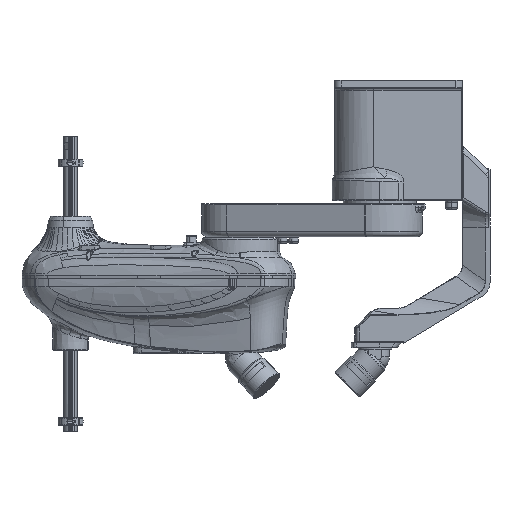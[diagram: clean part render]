
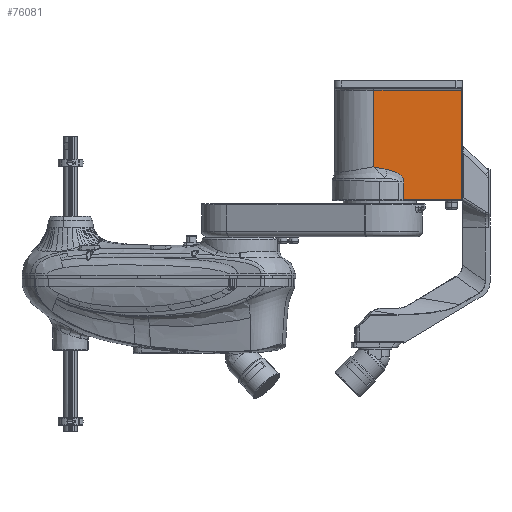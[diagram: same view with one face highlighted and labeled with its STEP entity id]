
A CAD part, front view. The second image highlights one B-rep face of the part: STEP entity #76081.
In plain terms, the highlighted planar face has unit normal (0, -1, 0) as drawn and (0, 0, -1) by its records, which use the part's own axes.
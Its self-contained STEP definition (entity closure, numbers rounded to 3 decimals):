
#1111 = CARTESIAN_POINT ( 'NONE',  ( 130.047, 73.893, 1423.001 ) ) ;
#1681 = CARTESIAN_POINT ( 'NONE',  ( 111.752, 59.114, 1423.001 ) ) ;
#2246 = CARTESIAN_POINT ( 'NONE',  ( 106.217, 57.776, 1423.001 ) ) ;
#2713 = EDGE_CURVE ( 'NONE', #17600, #134558, #20388, .T. ) ;
#2995 = CARTESIAN_POINT ( 'NONE',  ( 91.467, 54.828, 1423.001 ) ) ;
#3910 = DIRECTION ( 'NONE',  ( 1., 0., 0. ) ) ;
#5387 = VECTOR ( 'NONE', #108946, 1000. ) ;
#10740 = DIRECTION ( 'NONE',  ( 0., 1., 0. ) ) ;
#11989 = CARTESIAN_POINT ( 'NONE',  ( 24.834, 104.644, 1423.001 ) ) ;
#13780 = CARTESIAN_POINT ( 'NONE',  ( 123.269, 64.547, 1423.001 ) ) ;
#14344 = CARTESIAN_POINT ( 'NONE',  ( 118.396, 61.636, 1423.001 ) ) ;
#17600 = VERTEX_POINT ( 'NONE', #24872 ) ;
#20388 = LINE ( 'NONE', #132248, #156448 ) ;
#24872 = CARTESIAN_POINT ( 'NONE',  ( 218.834, 103.644, 1423.001 ) ) ;
#25232 = DIRECTION ( 'NONE',  ( -1., 0., 0. ) ) ;
#25801 = DIRECTION ( 'NONE',  ( 0., 0., 1. ) ) ;
#26459 = CARTESIAN_POINT ( 'NONE',  ( 121.494, 63.351, 1423.001 ) ) ;
#27034 = CARTESIAN_POINT ( 'NONE',  ( 129.764, 72.859, 1423.001 ) ) ;
#27792 = CARTESIAN_POINT ( 'NONE',  ( 98.119, 56.278, 1423.001 ) ) ;
#27915 = VERTEX_POINT ( 'NONE', #125942 ) ;
#28240 = VECTOR ( 'NONE', #10740, 1000. ) ;
#28800 = CARTESIAN_POINT ( 'NONE',  ( 84.834, -63.356, 1423.001 ) ) ;
#29807 = VECTOR ( 'NONE', #124386, 1000. ) ;
#30021 = LINE ( 'NONE', #161425, #5387 ) ;
#35939 = FACE_OUTER_BOUND ( 'NONE', #157944, .T. ) ;
#39704 = CARTESIAN_POINT ( 'NONE',  ( 128.217, 69.639, 1423.001 ) ) ;
#40280 = CARTESIAN_POINT ( 'NONE',  ( 130.32, 76.374, 1423.001 ) ) ;
#41422 = CARTESIAN_POINT ( 'NONE',  ( 130.25, 74.941, 1423.001 ) ) ;
#41776 = ORIENTED_EDGE ( 'NONE', *, *, #168466, .T. ) ;
#42007 = ORIENTED_EDGE ( 'NONE', *, *, #100262, .T. ) ;
#49336 = CARTESIAN_POINT ( 'NONE',  ( 130.32, 104.644, 1423.001 ) ) ;
#49900 = EDGE_CURVE ( 'NONE', #134558, #103516, #75070, .T. ) ;
#50688 = B_SPLINE_CURVE_WITH_KNOTS ( 'NONE', 3,
 ( #106623, #80203, #2995, #27792, #66945, #95659 ),
 .UNSPECIFIED., .F., .F.,
 ( 4, 2, 4 ),
 ( 0., 0.01, 0.02 ),
 .UNSPECIFIED. ) ;
#50897 = ORIENTED_EDGE ( 'NONE', *, *, #102811, .T. ) ;
#50953 = VERTEX_POINT ( 'NONE', #135194 ) ;
#54075 = CARTESIAN_POINT ( 'NONE',  ( 128.947, 70.868, 1423.001 ) ) ;
#55200 = CARTESIAN_POINT ( 'NONE',  ( 129.649, 72.517, 1423.001 ) ) ;
#56855 = CARTESIAN_POINT ( 'NONE',  ( 130.32, 103.644, 1423.001 ) ) ;
#66170 = CARTESIAN_POINT ( 'NONE',  ( 110.38, 58.73, 1423.001 ) ) ;
#66945 = CARTESIAN_POINT ( 'NONE',  ( 101.454, 56.958, 1423.001 ) ) ;
#67893 = CARTESIAN_POINT ( 'NONE',  ( 122.094, 63.732, 1423.001 ) ) ;
#68819 = AXIS2_PLACEMENT_3D ( 'NONE', #11989, #25801, #25232 ) ;
#68896 = CARTESIAN_POINT ( 'NONE',  ( 84.834, 53.294, 1423.001 ) ) ;
#72536 = EDGE_CURVE ( 'NONE', #137779, #27915, #145581, .T. ) ;
#75070 = LINE ( 'NONE', #149214, #29807 ) ;
#75473 = CARTESIAN_POINT ( 'NONE',  ( 104.811, 57.534, 1423.001 ) ) ;
#76081 = ADVANCED_FACE ( 'NONE', ( #35939 ), #90866, .F. ) ;
#79442 = CARTESIAN_POINT ( 'NONE',  ( 126.496, 67.344, 1423.001 ) ) ;
#80009 = CARTESIAN_POINT ( 'NONE',  ( 104.811, 57.534, 1423.001 ) ) ;
#80203 = CARTESIAN_POINT ( 'NONE',  ( 88.151, 54.058, 1423.001 ) ) ;
#84869 = LINE ( 'NONE', #56855, #111599 ) ;
#87937 = ORIENTED_EDGE ( 'NONE', *, *, #72536, .T. ) ;
#90866 = PLANE ( 'NONE',  #68819 ) ;
#92094 = CARTESIAN_POINT ( 'NONE',  ( 130.32, 75.651, 1423.001 ) ) ;
#92652 = CARTESIAN_POINT ( 'NONE',  ( 128.408, 69.942, 1423.001 ) ) ;
#95659 = CARTESIAN_POINT ( 'NONE',  ( 104.811, 57.534, 1423.001 ) ) ;
#100262 = EDGE_CURVE ( 'NONE', #27915, #50953, #118705, .T. ) ;
#102645 = ORIENTED_EDGE ( 'NONE', *, *, #49900, .T. ) ;
#102811 = EDGE_CURVE ( 'NONE', #103516, #157322, #30021, .T. ) ;
#103516 = VERTEX_POINT ( 'NONE', #28800 ) ;
#105518 = ORIENTED_EDGE ( 'NONE', *, *, #113893, .T. ) ;
#105862 = CARTESIAN_POINT ( 'NONE',  ( 129.26, 71.511, 1423.001 ) ) ;
#106623 = CARTESIAN_POINT ( 'NONE',  ( 84.834, 53.294, 1423.001 ) ) ;
#108946 = DIRECTION ( 'NONE',  ( 0., 1., 0. ) ) ;
#111599 = VECTOR ( 'NONE', #3910, 1000. ) ;
#112923 = ORIENTED_EDGE ( 'NONE', *, *, #2713, .T. ) ;
#113893 = EDGE_CURVE ( 'NONE', #50953, #17600, #84869, .T. ) ;
#118705 = LINE ( 'NONE', #49336, #28240 ) ;
#119092 = CARTESIAN_POINT ( 'NONE',  ( 107.613, 58.061, 1423.001 ) ) ;
#119653 = CARTESIAN_POINT ( 'NONE',  ( 127.812, 69.046, 1423.001 ) ) ;
#120223 = CARTESIAN_POINT ( 'NONE',  ( 115.799, 60.502, 1423.001 ) ) ;
#124386 = DIRECTION ( 'NONE',  ( -1., 0., 0. ) ) ;
#125942 = CARTESIAN_POINT ( 'NONE',  ( 130.32, 76.374, 1423.001 ) ) ;
#132248 = CARTESIAN_POINT ( 'NONE',  ( 218.834, 104.644, 1423.001 ) ) ;
#132369 = CARTESIAN_POINT ( 'NONE',  ( 123.843, 64.98, 1423.001 ) ) ;
#134062 = CARTESIAN_POINT ( 'NONE',  ( 129.963, 73.547, 1423.001 ) ) ;
#134558 = VERTEX_POINT ( 'NONE', #152474 ) ;
#135194 = CARTESIAN_POINT ( 'NONE',  ( 130.32, 103.644, 1423.001 ) ) ;
#137779 = VERTEX_POINT ( 'NONE', #75473 ) ;
#145581 = B_SPLINE_CURVE_WITH_KNOTS ( 'NONE', 3,
 ( #80009, #2246, #119092, #66170, #1681, #160077, #120223, #14344, #145640, #26459, #67893, #13780, #132369, #158922, #79442, #159504, #119653, #39704, #92652, #54075, #105862, #55200, #27034, #134062, #1111, #41422, #92094, #40280 ),
 .UNSPECIFIED., .F., .F.,
 ( 4, 2, 2, 2, 2, 2, 2, 2, 2, 2, 2, 2, 2, 4 ),
 ( 0., 0.004, 0.009, 0.013, 0.017, 0.019, 0.021, 0.026, 0.027, 0.028, 0.03, 0.031, 0.032, 0.034 ),
 .UNSPECIFIED. ) ;
#145640 = CARTESIAN_POINT ( 'NONE',  ( 119.661, 62.27, 1423.001 ) ) ;
#149214 = CARTESIAN_POINT ( 'NONE',  ( 219.834, -63.356, 1423.001 ) ) ;
#152474 = CARTESIAN_POINT ( 'NONE',  ( 218.834, -63.356, 1423.001 ) ) ;
#156448 = VECTOR ( 'NONE', #169741, 1000. ) ;
#157322 = VERTEX_POINT ( 'NONE', #68896 ) ;
#157944 = EDGE_LOOP ( 'NONE', ( #112923, #102645, #50897, #41776, #87937, #42007, #105518 ) ) ;
#158922 = CARTESIAN_POINT ( 'NONE',  ( 125.489, 66.344, 1423.001 ) ) ;
#159504 = CARTESIAN_POINT ( 'NONE',  ( 127.599, 68.754, 1423.001 ) ) ;
#160077 = CARTESIAN_POINT ( 'NONE',  ( 114.465, 60.001, 1423.001 ) ) ;
#161425 = CARTESIAN_POINT ( 'NONE',  ( 84.834, 104.644, 1423.001 ) ) ;
#168466 = EDGE_CURVE ( 'NONE', #157322, #137779, #50688, .T. ) ;
#169741 = DIRECTION ( 'NONE',  ( 0., -1., 0. ) ) ;
